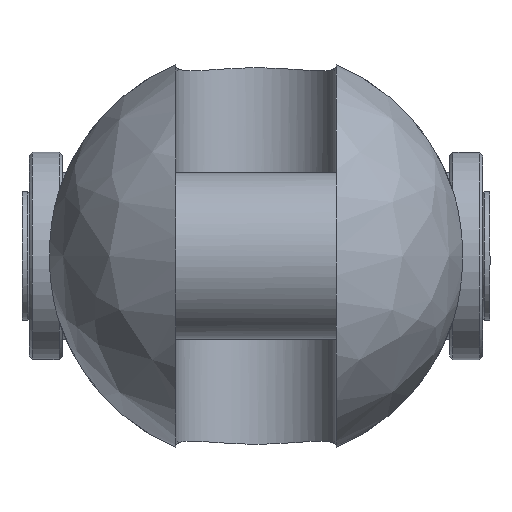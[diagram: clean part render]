
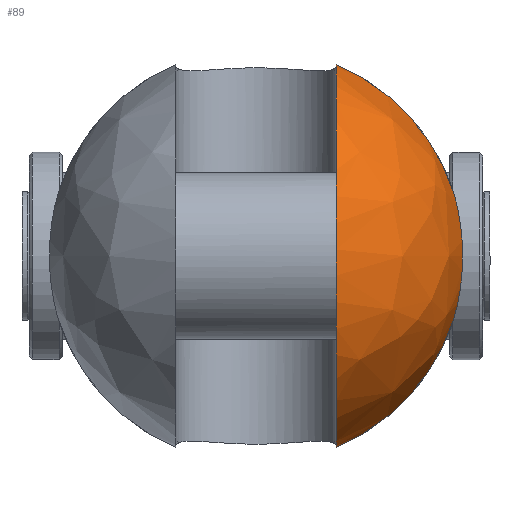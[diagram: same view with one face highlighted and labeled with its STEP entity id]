
A CAD part, left-side view. The second image highlights one B-rep face of the part: STEP entity #89.
In plain terms, the highlighted free-form (B-spline) face has degree [2, 2] with [9, 5] control points.
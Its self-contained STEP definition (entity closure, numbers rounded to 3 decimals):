
#89=ADVANCED_FACE('',(#164),#1306,.T.);
#164=FACE_OUTER_BOUND('',#249,.T.);
#249=EDGE_LOOP('',(#583,#584,#585,#586));
#583=ORIENTED_EDGE('',*,*,#811,.T.);
#584=ORIENTED_EDGE('',*,*,#834,.F.);
#585=ORIENTED_EDGE('',*,*,#845,.T.);
#586=ORIENTED_EDGE('',*,*,#827,.F.);
#811=EDGE_CURVE('',#1192,#1191,#1045,.T.);
#827=EDGE_CURVE('',#1192,#1204,#1055,.T.);
#834=EDGE_CURVE('',#1211,#1191,#1056,.T.);
#845=EDGE_CURVE('',#1211,#1204,#961,.T.);
#961=B_SPLINE_CURVE_WITH_KNOTS('',3,(#3052,#3053,#3054,#3055,#3056,#3057,
#3058,#3059,#3060,#3061,#3062,#3063,#3064,#3065),.UNSPECIFIED.,.F.,.F.,
(4,2,2,2,2,2,4),(0.,2.073,6.161,10.249,
14.337,18.426,20.498),.UNSPECIFIED.);
#1045=(
BOUNDED_CURVE()
B_SPLINE_CURVE(2,(#2912,#2913,#2914,#2915,#2916),.UNSPECIFIED.,.F.,.F.)
B_SPLINE_CURVE_WITH_KNOTS((3,2,3),(-89.797,-44.898,
0.),.UNSPECIFIED.)
CURVE()
GEOMETRIC_REPRESENTATION_ITEM()
RATIONAL_B_SPLINE_CURVE((1.,0.707,1.,0.707,1.))
REPRESENTATION_ITEM('')
);
#1055=(
BOUNDED_CURVE()
B_SPLINE_CURVE(2,(#2990,#2991,#2992),.UNSPECIFIED.,.F.,.F.)
B_SPLINE_CURVE_WITH_KNOTS((3,3),(0.,26.731),.UNSPECIFIED.)
CURVE()
GEOMETRIC_REPRESENTATION_ITEM()
RATIONAL_B_SPLINE_CURVE((1.,0.908,1.))
REPRESENTATION_ITEM('')
);
#1056=(
BOUNDED_CURVE()
B_SPLINE_CURVE(2,(#3013,#3014,#3015),.UNSPECIFIED.,.F.,.F.)
B_SPLINE_CURVE_WITH_KNOTS((3,3),(0.,26.731),.UNSPECIFIED.)
CURVE()
GEOMETRIC_REPRESENTATION_ITEM()
RATIONAL_B_SPLINE_CURVE((1.,0.908,1.))
REPRESENTATION_ITEM('')
);
#1191=VERTEX_POINT('',#2837);
#1192=VERTEX_POINT('',#2838);
#1204=VERTEX_POINT('',#2850);
#1211=VERTEX_POINT('',#2857);
#1306=(
BOUNDED_SURFACE()
B_SPLINE_SURFACE(2,2,((#2445,#2446,#2447,#2448,#2449),(#2450,#2451,#2452,
#2453,#2454),(#2455,#2456,#2457,#2458,#2459),(#2460,#2461,#2462,#2463,#2464),
(#2465,#2466,#2467,#2468,#2469),(#2470,#2471,#2472,#2473,#2474),(#2475,
#2476,#2477,#2478,#2479),(#2480,#2481,#2482,#2483,#2484),(#2485,#2486,#2487,
#2488,#2489)),.UNSPECIFIED.,.T.,.F.,.F.)
B_SPLINE_SURFACE_WITH_KNOTS((3,2,2,2,3),(3,2,3),(0.,48.695,97.389,
146.084,194.779),(0.,48.695,97.389),
 .UNSPECIFIED.)
GEOMETRIC_REPRESENTATION_ITEM()
RATIONAL_B_SPLINE_SURFACE(((1.,0.707,1.,0.707,1.),
(0.707,0.5,0.707,0.5,0.707),(1.,0.707,
1.,0.707,1.),(0.707,0.5,0.707,0.5,0.707),
(1.,0.707,1.,0.707,1.),(0.707,0.5,0.707,
0.5,0.707),(1.,0.707,1.,0.707,1.),(0.707,
0.5,0.707,0.5,0.707),(1.,0.707,1.,0.707,
1.)))
REPRESENTATION_ITEM('')
SURFACE()
);
#2445=CARTESIAN_POINT('',(-44.5,0.,0.));
#2446=CARTESIAN_POINT('',(-44.5,31.,0.));
#2447=CARTESIAN_POINT('',(-13.5,31.,0.));
#2448=CARTESIAN_POINT('',(17.5,31.,0.));
#2449=CARTESIAN_POINT('',(17.5,0.,0.));
#2450=CARTESIAN_POINT('',(-44.5,0.,0.));
#2451=CARTESIAN_POINT('',(-44.5,31.,31.));
#2452=CARTESIAN_POINT('',(-13.5,31.,31.));
#2453=CARTESIAN_POINT('',(17.5,31.,31.));
#2454=CARTESIAN_POINT('',(17.5,0.,0.));
#2455=CARTESIAN_POINT('',(-44.5,0.,0.));
#2456=CARTESIAN_POINT('',(-44.5,0.,31.));
#2457=CARTESIAN_POINT('',(-13.5,0.,31.));
#2458=CARTESIAN_POINT('',(17.5,0.,31.));
#2459=CARTESIAN_POINT('',(17.5,0.,0.));
#2460=CARTESIAN_POINT('',(-44.5,0.,0.));
#2461=CARTESIAN_POINT('',(-44.5,-31.,31.));
#2462=CARTESIAN_POINT('',(-13.5,-31.,31.));
#2463=CARTESIAN_POINT('',(17.5,-31.,31.));
#2464=CARTESIAN_POINT('',(17.5,0.,0.));
#2465=CARTESIAN_POINT('',(-44.5,0.,0.));
#2466=CARTESIAN_POINT('',(-44.5,-31.,0.));
#2467=CARTESIAN_POINT('',(-13.5,-31.,0.));
#2468=CARTESIAN_POINT('',(17.5,-31.,0.));
#2469=CARTESIAN_POINT('',(17.5,0.,0.));
#2470=CARTESIAN_POINT('',(-44.5,0.,0.));
#2471=CARTESIAN_POINT('',(-44.5,-31.,-31.));
#2472=CARTESIAN_POINT('',(-13.5,-31.,-31.));
#2473=CARTESIAN_POINT('',(17.5,-31.,-31.));
#2474=CARTESIAN_POINT('',(17.5,0.,0.));
#2475=CARTESIAN_POINT('',(-44.5,0.,0.));
#2476=CARTESIAN_POINT('',(-44.5,0.,-31.));
#2477=CARTESIAN_POINT('',(-13.5,0.,-31.));
#2478=CARTESIAN_POINT('',(17.5,0.,-31.));
#2479=CARTESIAN_POINT('',(17.5,0.,0.));
#2480=CARTESIAN_POINT('',(-44.5,0.,0.));
#2481=CARTESIAN_POINT('',(-44.5,31.,-31.));
#2482=CARTESIAN_POINT('',(-13.5,31.,-31.));
#2483=CARTESIAN_POINT('',(17.5,31.,-31.));
#2484=CARTESIAN_POINT('',(17.5,0.,0.));
#2485=CARTESIAN_POINT('',(-44.5,0.,0.));
#2486=CARTESIAN_POINT('',(-44.5,31.,0.));
#2487=CARTESIAN_POINT('',(-13.5,31.,0.));
#2488=CARTESIAN_POINT('',(17.5,31.,0.));
#2489=CARTESIAN_POINT('',(17.5,0.,0.));
#2837=CARTESIAN_POINT('',(-13.5,-12.,-28.583));
#2838=CARTESIAN_POINT('',(-13.5,-12.,28.583));
#2850=CARTESIAN_POINT('',(-13.5,-29.513,9.487));
#2857=CARTESIAN_POINT('',(-13.5,-29.513,-9.487));
#2912=CARTESIAN_POINT('',(-13.5,-12.,28.583));
#2913=CARTESIAN_POINT('',(-42.083,-12.,28.583));
#2914=CARTESIAN_POINT('',(-42.083,-12.,0.));
#2915=CARTESIAN_POINT('',(-42.083,-12.,-28.583));
#2916=CARTESIAN_POINT('',(-13.5,-12.,-28.583));
#2990=CARTESIAN_POINT('',(-13.5,-12.,28.583));
#2991=CARTESIAN_POINT('',(-13.5,-25.149,23.063));
#2992=CARTESIAN_POINT('',(-13.5,-29.513,9.487));
#3013=CARTESIAN_POINT('',(-13.5,-29.513,-9.487));
#3014=CARTESIAN_POINT('',(-13.5,-25.149,-23.063));
#3015=CARTESIAN_POINT('',(-13.5,-12.,-28.583));
#3052=CARTESIAN_POINT('',(-13.5,-29.513,-9.487));
#3053=CARTESIAN_POINT('',(-13.887,-29.69,-8.937));
#3054=CARTESIAN_POINT('',(-14.234,-29.847,-8.37));
#3055=CARTESIAN_POINT('',(-15.136,-30.253,-6.691));
#3056=CARTESIAN_POINT('',(-15.655,-30.483,-5.395));
#3057=CARTESIAN_POINT('',(-16.338,-30.784,-2.696));
#3058=CARTESIAN_POINT('',(-16.5,-30.854,-1.293));
#3059=CARTESIAN_POINT('',(-16.5,-30.854,1.293));
#3060=CARTESIAN_POINT('',(-16.338,-30.784,2.696));
#3061=CARTESIAN_POINT('',(-15.655,-30.483,5.395));
#3062=CARTESIAN_POINT('',(-15.136,-30.253,6.691));
#3063=CARTESIAN_POINT('',(-14.234,-29.847,8.37));
#3064=CARTESIAN_POINT('',(-13.887,-29.69,8.937));
#3065=CARTESIAN_POINT('',(-13.5,-29.513,9.487));
